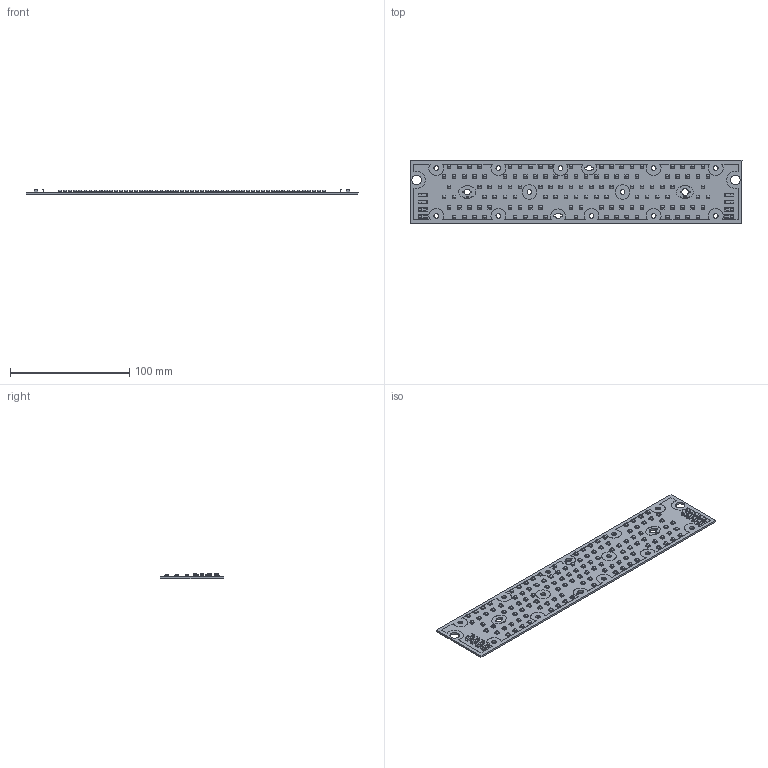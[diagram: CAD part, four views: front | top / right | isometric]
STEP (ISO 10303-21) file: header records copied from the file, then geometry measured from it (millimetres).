
FILE_DESCRIPTION(('CATIA V5 STEP Exchange','CAx-IF Rec.Pracs.--- Model Styling and Organization---1.4--- 2014-01-23','CAx-IF Rec.Pracs.---3D Tessellated Data Validation Properties---0.5---2014-09-14'),'2;1');
FILE_NAME('Z:\Engineering\Design Library\Dahlia_Floral\PCB\DAHLIA-PCBdrawing.stp','2023-11-22T12:08:22+00:00',('none'),('none'),'CATIA Version 5-6 Release 2018 SP4','CATIA V5 STEP AP242','none');
FILE_SCHEMA(('AP242_MANAGED_MODEL_BASED_3D_ENGINEERING_MIM_LF {1 0 10303 442 1 1 4}'));
Products named in the file (1): DAHLIA
Bounding box: 278 x 53 x 4.7 mm (x, y, z)
Volume: 25231.3 mm3; surface area: 35439.8 mm2
Topology: 129 solids, 129 shells, 7184 faces, 19453 edges, 12940 vertices
Faces by surface type: plane 4410, cylinder 2054, bspline 480, cone 240
Entity records: 251129 total; most frequent: CARTESIAN_POINT 90508, ORIENTED_EDGE 38410, DIRECTION 24336, EDGE_CURVE 19205, VERTEX_POINT 12796, VECTOR 11936, LINE 11936, EDGE_LOOP 7753
